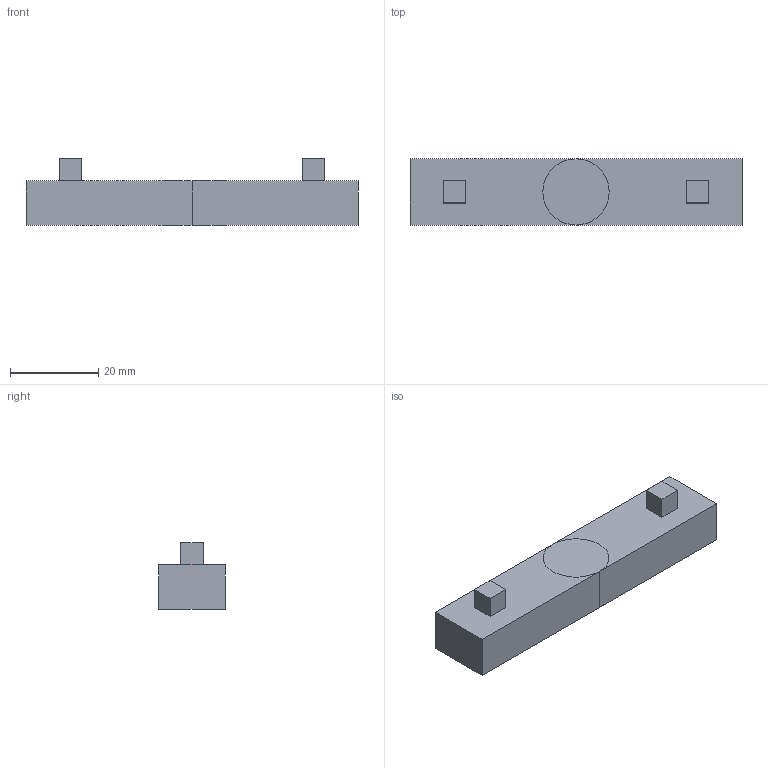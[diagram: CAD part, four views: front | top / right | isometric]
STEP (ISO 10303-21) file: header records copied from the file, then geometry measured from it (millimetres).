
FILE_DESCRIPTION(('FreeCAD Model'),'2;1');
FILE_NAME('Open CASCADE Shape Model','2025-09-30T19:39:27',(''),(''), 'Open CASCADE STEP processor 7.8','FreeCAD','Unknown');
FILE_SCHEMA(('AUTOMOTIVE_DESIGN { 1 0 10303 214 1 1 1 1 }'));
Length unit declared in the file: millimetre
Products named in the file (1): Body
Bounding box: 75.17 x 15 x 15 mm (x, y, z)
Volume: 11526 mm3; surface area: 4258.7 mm2
Topology: 1 solids, 1 shells, 22 faces, 46 edges, 28 vertices
Faces by surface type: plane 22
Entity records: 1202 total; most frequent: CARTESIAN_POINT 213, DIRECTION 184, LINE 126, VECTOR 126, ORIENTED_EDGE 92, PCURVE 92, DEFINITIONAL_REPRESENTATION 92, EDGE_CURVE 46
